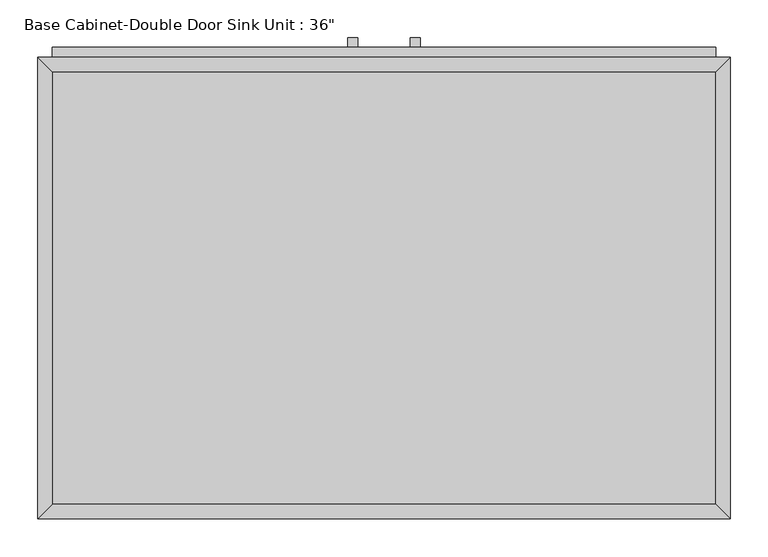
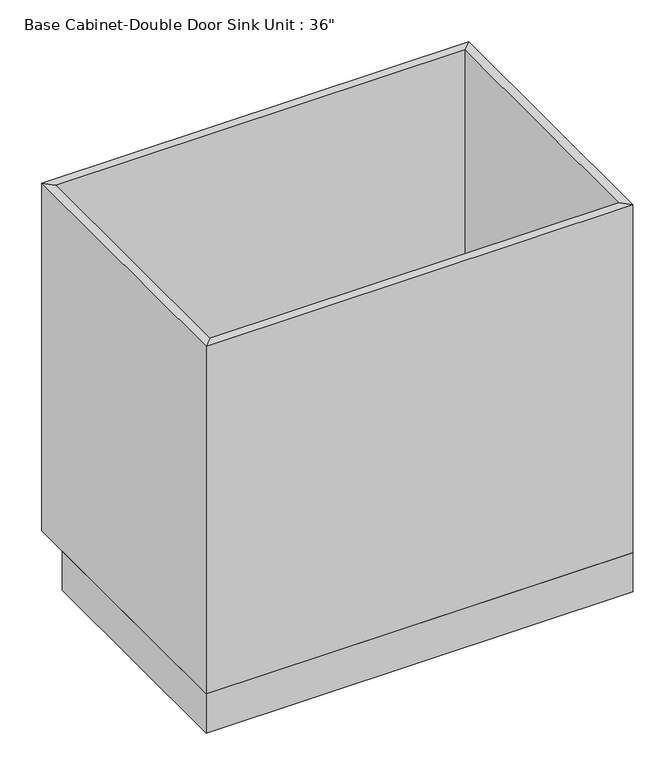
"""IFC4 building model written with IfcOpenShell, lengths in millimetres: furniture geometry."""

from ifc_helpers import new_model, si_unit, frame, origin, origin_with_axes, place, context, project, spatial, polyline, outline, extrude, faceted_brep, source, transform, mapped, element, save


def furniture_aef3df76(model_context):
    return source(origin(), model_context, "Body", "SolidModel", [
        extrude(outline(polyline([(-16.1872951, 635.0), (-16.1872951, 622.3), (-28.8872951, 622.3), (-28.8872951, 635.0), (-16.1872951, 635.0)])), frame((0.0, 0.0, 573.769895), z_axis=(0.0, 0.0, 1.0), x_axis=(1.0, 0.0, 0.0)), (0.0, 0.0, 1.0), 124.730105),
        extrude(outline(polyline([(66.3627049, 635.0), (66.3627049, 622.3), (53.6627049, 622.3), (53.6627049, 635.0), (66.3627049, 635.0)])), frame((0.0, 0.0, 573.769895), z_axis=(0.0, 0.0, 1.0), x_axis=(1.0, 0.0, 0.0)), (0.0, 0.0, 1.0), 124.730105),
        extrude(outline(polyline([(456.8877049, 19.05), (-419.4122951, 19.05), (-419.4122951, 590.55), (456.8877049, 590.55), (456.8877049, 19.05)])), frame((0.0, 0.0, 88.9), z_axis=(0.0, 0.0, 1.0), x_axis=(1.0, 0.0, 0.0)), (0.0, 0.0, 1.0), 19.05),
        faceted_brep([(456.8877049, 590.55, 876.3), (-419.4122951, 590.55, 876.3), (-419.4122951, 590.55, 88.9), (456.8877049, 590.55, 88.9), (475.9377049, 609.6, 876.3), (-438.4622951, 609.6, 876.3), (475.9377049, 609.6, 88.9), (-438.4622951, 609.6, 88.9), (-419.4122951, 19.05, 876.3), (-419.4122951, 19.05, 88.9), (-438.4622951, 0.0, 876.3), (-438.4622951, 0.0, 88.9), (456.8877049, 19.05, 876.3), (456.8877049, 19.05, 88.9), (475.9377049, 0.0, 876.3), (475.9377049, 0.0, 88.9)], [[[0, 1, 2, 3]], [[4, 5, 1, 0]], [[6, 7, 5, 4]], [[3, 2, 7, 6]], [[1, 8, 9, 2]], [[5, 10, 8, 1]], [[7, 11, 10, 5]], [[2, 9, 11, 7]], [[8, 12, 13, 9]], [[10, 14, 12, 8]], [[11, 15, 14, 10]], [[9, 13, 15, 11]], [[12, 0, 3, 13]], [[14, 4, 0, 12]], [[15, 6, 4, 14]], [[13, 3, 6, 15]]]),
        extrude(outline(polyline([(475.9377049, 0.0), (-438.4622951, 0.0), (-438.4622951, 533.4), (475.9377049, 533.4), (475.9377049, 0.0)])), origin_with_axes(), (0.0, 0.0, 1.0), 88.9),
        extrude(outline(polyline([(9.2127049, 622.3), (9.2127049, 609.6), (-419.4122951, 609.6), (-419.4122951, 622.3), (9.2127049, 622.3)])), frame((0.0, 0.0, 107.95), z_axis=(0.0, 0.0, 1.0), x_axis=(1.0, 0.0, 0.0)), (0.0, 0.0, 1.0), 628.65),
        extrude(outline(polyline([(456.8877049, 622.3), (456.8877049, 609.6), (28.2627049, 609.6), (28.2627049, 622.3), (456.8877049, 622.3)])), frame((0.0, 0.0, 107.95), z_axis=(0.0, 0.0, 1.0), x_axis=(1.0, 0.0, 0.0)), (0.0, 0.0, 1.0), 628.65),
        extrude(outline(polyline([(456.8877049, 622.3), (456.8877049, 609.6), (-419.4122951, 609.6), (-419.4122951, 622.3), (456.8877049, 622.3)])), frame((0.0, 0.0, 755.65), z_axis=(0.0, 0.0, 1.0), x_axis=(1.0, 0.0, 0.0)), (0.0, 0.0, 1.0), 101.6),
    ])


if __name__ == "__main__":
    model = new_model("IFC4")
    model_context = context("Model", 3, world=origin())
    ifc_project = project(units=[si_unit("LENGTHUNIT", "METRE", prefix="MILLI")], contexts=[model_context])
    site = spatial("IfcSite", under=ifc_project)
    building = spatial("IfcBuilding", under=site)
    placement = place(None, origin())
    furniture_shape = furniture_aef3df76(model_context)
    element("IfcFurniture", 1, ObjectType="Base Cabinet-Double Door Sink Unit : 36\"", at=placement, inside=building, context=model_context, shape_type="MappedRepresentation", body=[
        mapped(furniture_shape, transform((0.0, 0.0, 0.0), x_axis=(1.0, 0.0, 0.0), y_axis=(0.0, 1.0, 0.0), z_axis=(0.0, 0.0, 1.0))),
    ])
    save(model, "model.ifc")
